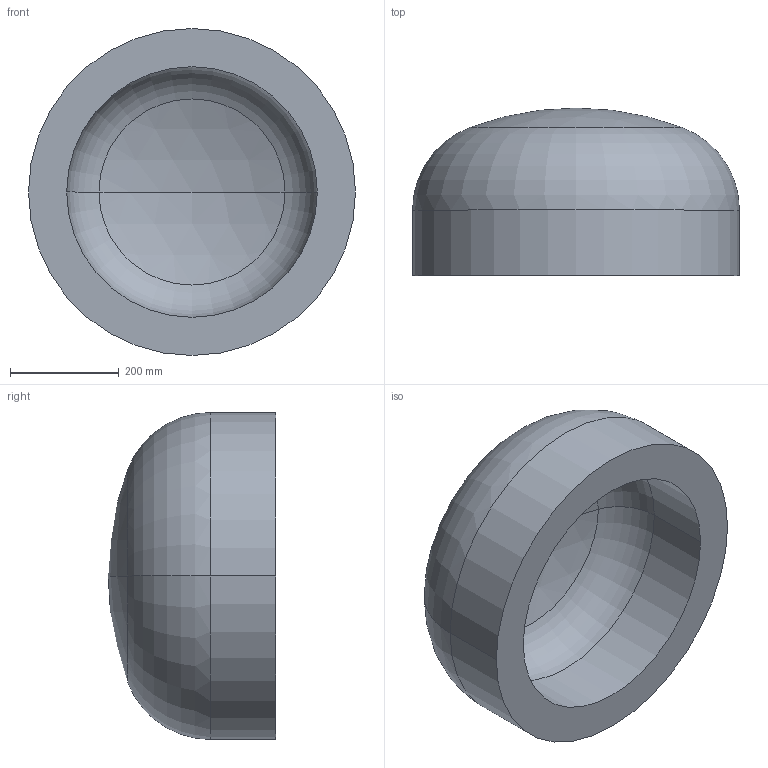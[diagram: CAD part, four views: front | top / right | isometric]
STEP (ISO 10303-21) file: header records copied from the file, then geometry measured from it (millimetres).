
FILE_DESCRIPTION (( 'STEP AP203' ), '1' );
FILE_NAME ('DIN 28013 Korbbogenform_-_Boden DIN 28013 - 600 x 120 - I - s=70.step', '2016-07-01T08:02:38', ( '' ), ( '' ), 'SwSTEP 2.0', 'SolidWorks 2013', '' );
FILE_SCHEMA (( 'CONFIG_CONTROL_DESIGN' ));
Length unit declared in the file: millimetre
Products named in the file (1): DIN 28013 Korbbogenform_-_Boden DIN 28013 - 600 x 120 - I - s=70
Bounding box: 600 x 307.37 x 600 mm (x, y, z)
Volume: 37728938.9 mm3; surface area: 1204785.2 mm2
Topology: 1 solids, 1 shells, 13 faces, 24 edges, 14 vertices
Faces by surface type: torus 4, cylinder 4, sphere 4, plane 1
Entity records: 407 total; most frequent: DIRECTION 72, CARTESIAN_POINT 52, ORIENTED_EDGE 48, AXIS2_PLACEMENT_3D 34, EDGE_CURVE 24, CIRCLE 20, EDGE_LOOP 14, VERTEX_POINT 14
